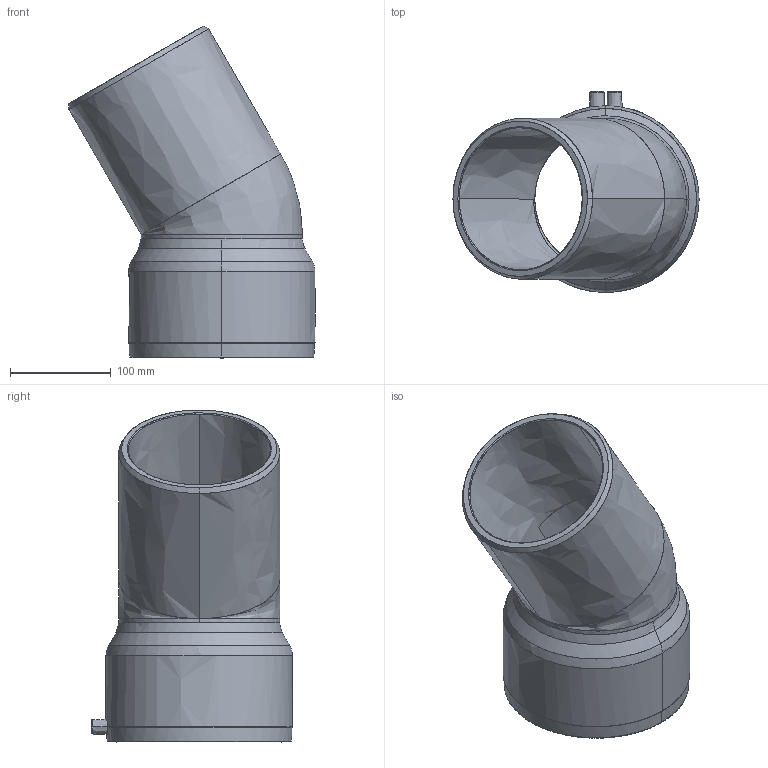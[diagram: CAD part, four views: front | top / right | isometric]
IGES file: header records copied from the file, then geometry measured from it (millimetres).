
Start section:  PTC IGES file: abms30_d160.igs
Global section: file name: abms30_d160.igs; native system: Pro/ENGINEER by Parametric Technology Corporation; preprocessor: 2011490; author: mtunjic; organization: Unknown; date: 20130723.140149; units: millimetre
Bounding box: 244.38 x 199.67 x 329.69 mm (x, y, z)
Surface area: 331393.7 mm2 (no closed solid volume)
Topology: 0 solids, 0 shells, 175 faces, 870 edges, 868 vertices
Faces by surface type: bspline 175
